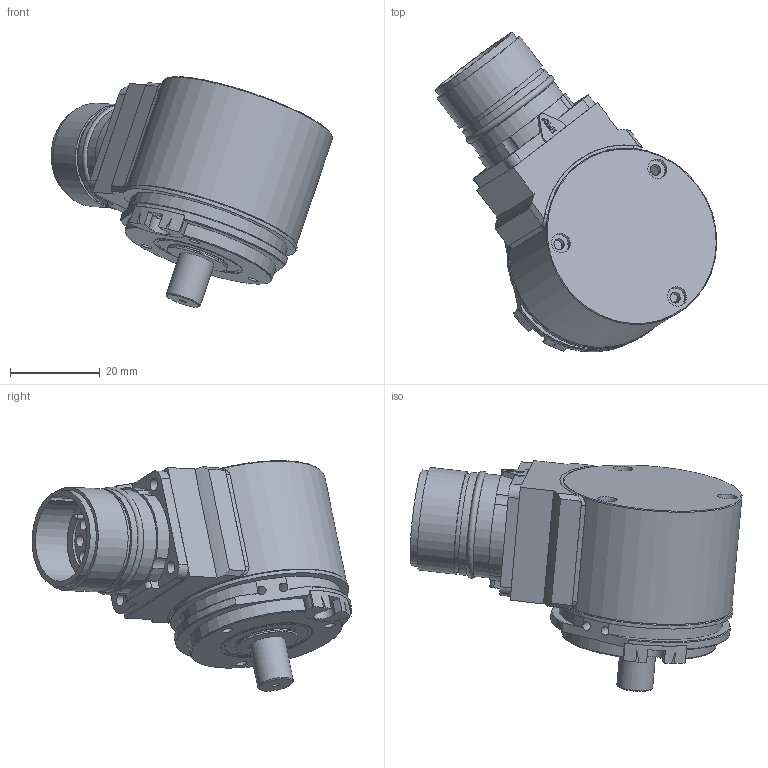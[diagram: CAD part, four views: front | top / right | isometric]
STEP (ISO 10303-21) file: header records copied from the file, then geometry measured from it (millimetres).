
FILE_DESCRIPTION(/* description */ (''),/* implementation_level */ '2;1');
FILE_NAME(/* name */ 'C:\Users\hnc\Desktop\엔코더\Sahft Type\S40\S40A_32_31_1.28.stp',/* time_stamp */ '2023-05-28T16:37:12+09:00',/* author */ ('hnc'),/* organization */ (''),/* preprocessor_version */ 'ST-DEVELOPER v18.1',/* originating_system */ 'Autodesk Inventor 2021',/* authorisation */ '');
FILE_SCHEMA (('AUTOMOTIVE_DESIGN { 1 0 10303 214 3 1 1 }'));
Products named in the file (17): H40A_32_31_1.28; 1-BASE; 2-Shaft; 4-Case; 3-Encoder_Base; 10-PCB_SPT; 12-CONNECTOR_NBR; 13-Magnet; 16-CONNECTOR; AL_BASE; Top_Flange; Open CASCADE STEP translator 6.8 5.1.1; 6801ZZ_12x21x5; EPIC_Connector; EPIC__SIGNAL_M23_A1_N______Art__Nr__72004000; EPIC__SIGNAL_M23_Insert_P_part_12______Art__Nr__73002715_3; EPIC__SIGNAL_M23_Insert_P_part_12______Art__Nr__73002715_16
Assembly tree (17 placements, depth 3):
  H40A_32_31_1.28
    1-BASE
    2-Shaft
    4-Case
    3-Encoder_Base
    10-PCB_SPT
    12-CONNECTOR_NBR
    13-Magnet
    16-CONNECTOR
    AL_BASE
    Top_Flange
    Open CASCADE STEP translator 6.8 5.1.1
    6801ZZ_12x21x5  x2
    EPIC_Connector
      EPIC__SIGNAL_M23_A1_N______Art__Nr__72004000
      EPIC__SIGNAL_M23_Insert_P_part_12______Art__Nr__73002715_3
      EPIC__SIGNAL_M23_Insert_P_part_12______Art__Nr__73002715_16
Bounding box: 62.6 x 71.1 x 51.24 mm (x, y, z)
Volume: 39619.2 mm3; surface area: 40918 mm2
Topology: 175 solids, 175 shells, 1330 faces, 3103 edges, 2158 vertices
Faces by surface type: plane 754, cylinder 505, cone 29, sphere 29, torus 13
Full cylindrical faces by diameter (mm): 0.482 x1, 0.578 x1, 1 x1, 1.183 x4, 1.25 x12, 1.3 x13, 1.5 x1, 1.567 x4, 1.6 x5, 1.813 x3, 2 x2, 2.013 x14, 2.05 x1, 2.2 x5, 2.25 x24, 2.3 x3, 2.4 x3, 2.459 x3, 2.5 x5, 2.65 x12, 2.7 x4, 3 x4, 4.4 x3, 8 x1, 11 x1, 12 x5, 13 x2, 13.103 x1, 13.5 x1, 14 x9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
Entity records: 39441 total; most frequent: CARTESIAN_POINT 7364, DIRECTION 6811, ORIENTED_EDGE 5874, EDGE_CURVE 2937, AXIS2_PLACEMENT_3D 2622, VERTEX_POINT 2070, LINE 1567, VECTOR 1567
